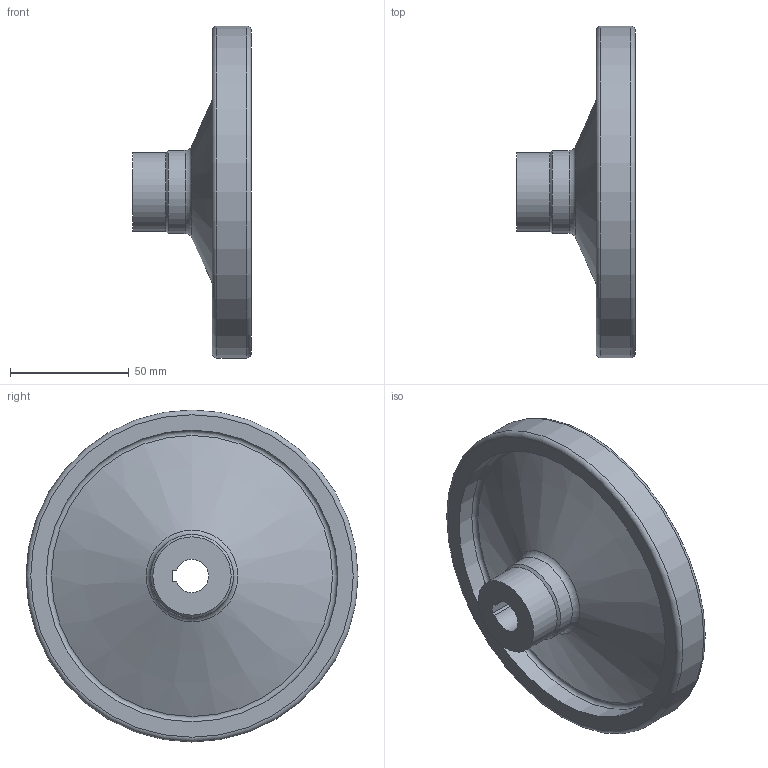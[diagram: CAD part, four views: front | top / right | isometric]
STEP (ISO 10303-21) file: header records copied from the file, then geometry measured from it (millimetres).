
FILE_DESCRIPTION( ( 'STEP AP203' ), '1' );
FILE_NAME( 'C:/Temp/Ganter_Step_05_03_2020/data/1_3/gn_321_5/gn_321_5_a/gn_321_5_a_dr/Safety handwheel GN 321.5-140-K14-A-DR.stp', '2020-03-05T10:42:37', ( 'License CC BY-ND 4.0' ), ( 'CADENAS' ), ' ', 'PARTsolutions', ' ' );
FILE_SCHEMA( ( 'CONFIG_CONTROL_DESIGN' ) );
Length unit declared in the file: millimetre
Products named in the file (1): _Safety handwheel GN 321.5-140-K14-A-DR
Bounding box: 50 x 140 x 140 mm (x, y, z)
Volume: 161000.8 mm3; surface area: 50069.3 mm2
Topology: 1 solids, 1 shells, 24 faces, 46 edges, 27 vertices
Faces by surface type: plane 8, cylinder 7, torus 5, cone 4
Full cylindrical faces by diameter (mm): 33 x2, 35 x1, 104 x1, 123 x1, 140 x1
Entity records: 576 total; most frequent: DIRECTION 102, CARTESIAN_POINT 83, ORIENTED_EDGE 62, AXIS2_PLACEMENT_3D 46, EDGE_LOOP 44, FACE_OUTER_BOUND 35, EDGE_CURVE 31, VERTEX_POINT 27
